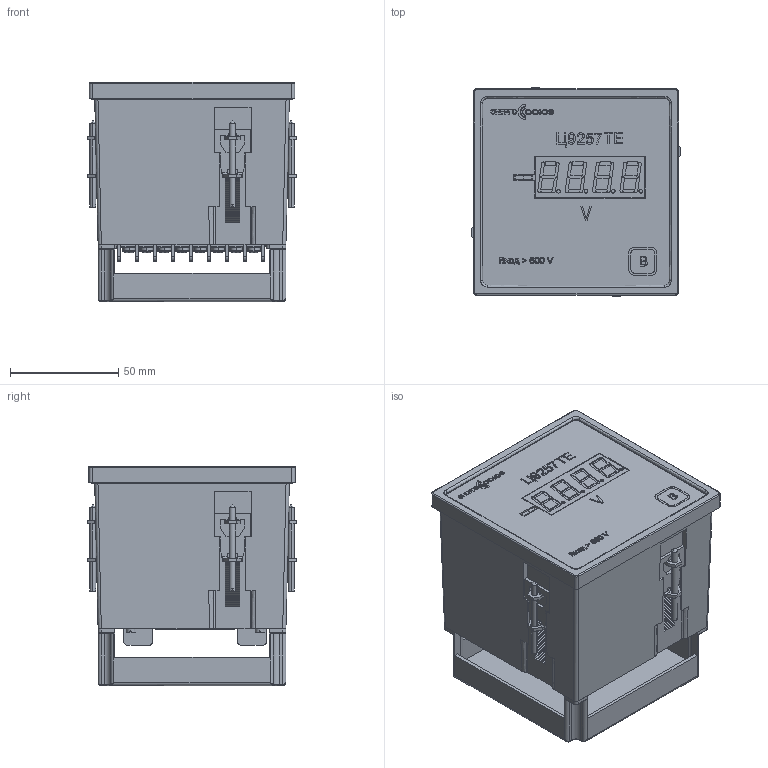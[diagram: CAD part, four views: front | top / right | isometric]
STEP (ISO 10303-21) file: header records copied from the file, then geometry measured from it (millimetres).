
FILE_DESCRIPTION (( 'STEP AP214' ), '1' );
FILE_NAME ('c9257te_96x96x103.STEP', '2025-01-17T11:35:07', ( '' ), ( '' ), 'SwSTEP 2.0', 'SolidWorks 2021', '' );
FILE_SCHEMA (( 'AUTOMOTIVE_DESIGN' ));
Length unit declared in the file: millimetre
Products named in the file (19): Äåòàëü1^Êîïèÿ sborka-FYQ-5641_sborka-c9257te_step; back-panel-TE; Ñêîáà ÖÔ9285_step; Ñêîáà DG35; 鼁闉罻 DG35; Êîïèÿ Êîïèÿ back-label-te^sborka-c9257te_step; ramka-TE; Êîïèÿ sborka-FYQ-5641^sborka-c9257te_step; green-led; c9257te_96x96x103; OsnovaTE_step; îñíîâàíèå DG35; FYQ-5641; pan head cross recess screw_iso_ISO 7045 - M3 x 4 - Z --- 4N; Âèíò äëÿ ñêîáû ÖÔ9285_step; øàéáà DG35; slotted cheese head screw_iso_ISO 1207 - M2.5 x 10 - 10N; front-panel-9257TE_step; Ñáîðêà ñêîáà ÖÔ9285_step
Assembly tree (46 placements, depth 3):
  Äåòàëü1^Êîïèÿ sborka-FYQ-5641_sborka-c9257te_step
  c9257te_96x96x103
    OsnovaTE_step
    front-panel-9257TE_step
    ramka-TE
    back-panel-TE
    Ñáîðêà ñêîáà ÖÔ9285_step  x4
      Ñêîáà ÖÔ9285_step
      Âèíò äëÿ ñêîáû ÖÔ9285_step
    green-led  x2
    Êîïèÿ sborka-FYQ-5641^sborka-c9257te_step
      FYQ-5641
    鼁闉罻 DG35  x2
      îñíîâàíèå DG35
      Ñêîáà DG35
      pan head cross recess screw_iso_ISO 7045 - M3 x 4 - Z --- 4N
      øàéáà DG35
    Êîïèÿ Êîïèÿ back-label-te^sborka-c9257te_step
    slotted cheese head screw_iso_ISO 1207 - M2.5 x 10 - 10N  x4
Bounding box: 96.76 x 96.76 x 101.41 mm (x, y, z)
Volume: 136804.6 mm3; surface area: 159604.3 mm2
Topology: 139 solids, 139 shells, 5530 faces, 13755 edges, 8586 vertices
Faces by surface type: plane 3171, cylinder 992, bspline 987, cone 192, sphere 104, torus 84
Entity records: 99753 total; most frequent: CARTESIAN_POINT 35062, ORIENTED_EDGE 13758, DIRECTION 11500, EDGE_CURVE 6879, VECTOR 5018, LINE 5018, VERTEX_POINT 4498, AXIS2_PLACEMENT_3D 3241
